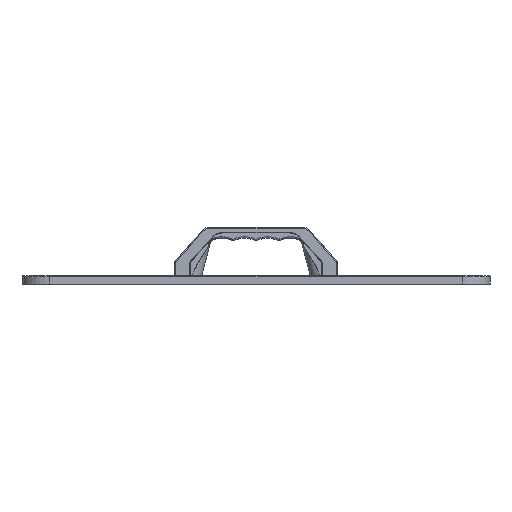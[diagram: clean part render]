
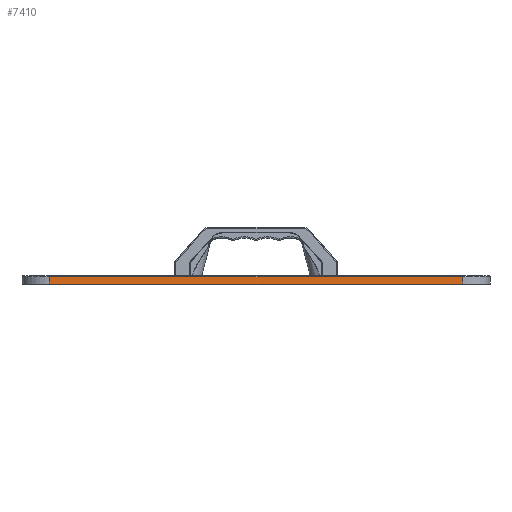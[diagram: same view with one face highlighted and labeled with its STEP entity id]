
A CAD part, left-side view. The second image highlights one B-rep face of the part: STEP entity #7410.
In plain terms, the highlighted planar face has unit normal (-1, 0, 0).
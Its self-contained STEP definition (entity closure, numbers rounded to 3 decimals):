
#5091=PLANE('',#32339);
#7410=ADVANCED_FACE('',(#9397),#5091,.T.);
#9397=FACE_OUTER_BOUND('',#11222,.T.);
#11222=EDGE_LOOP('',(#17786,#17787,#17788,#17789));
#17786=ORIENTED_EDGE('',*,*,#26778,.F.);
#17787=ORIENTED_EDGE('',*,*,#26780,.T.);
#17788=ORIENTED_EDGE('',*,*,#26781,.T.);
#17789=ORIENTED_EDGE('',*,*,#26782,.T.);
#23627=VERTEX_POINT('',#53686);
#23628=VERTEX_POINT('',#53688);
#23629=VERTEX_POINT('',#53692);
#23630=VERTEX_POINT('',#53694);
#26778=EDGE_CURVE('',#23627,#23628,#29022,.T.);
#26780=EDGE_CURVE('',#23627,#23629,#29023,.T.);
#26781=EDGE_CURVE('',#23629,#23630,#29024,.T.);
#26782=EDGE_CURVE('',#23630,#23628,#29025,.T.);
#29022=LINE('',#53687,#30300);
#29023=LINE('',#53691,#30301);
#29024=LINE('',#53693,#30302);
#29025=LINE('',#53695,#30303);
#30300=VECTOR('',#36513,1.);
#30301=VECTOR('',#36518,1.);
#30302=VECTOR('',#36519,1.);
#30303=VECTOR('',#36520,1.);
#32339=AXIS2_PLACEMENT_3D('',#53696,#36521,#36522);
#36513=DIRECTION('',(0.,0.,1.));
#36518=DIRECTION('',(0.,-1.,0.));
#36519=DIRECTION('',(0.,0.,1.));
#36520=DIRECTION('',(0.,1.,0.));
#36521=DIRECTION('',(-1.,0.,0.));
#36522=DIRECTION('',(0.,0.,-1.));
#53686=CARTESIAN_POINT('',(-255.,225.,-9.));
#53687=CARTESIAN_POINT('',(-255.,225.,-10.));
#53688=CARTESIAN_POINT('',(-255.,225.,-1.));
#53691=CARTESIAN_POINT('',(-255.,-225.,-9.));
#53692=CARTESIAN_POINT('',(-255.,-225.,-9.));
#53693=CARTESIAN_POINT('',(-255.,-225.,-10.));
#53694=CARTESIAN_POINT('',(-255.,-225.,-1.));
#53695=CARTESIAN_POINT('',(-255.,225.,-1.));
#53696=CARTESIAN_POINT('',(-255.,225.,-10.));
